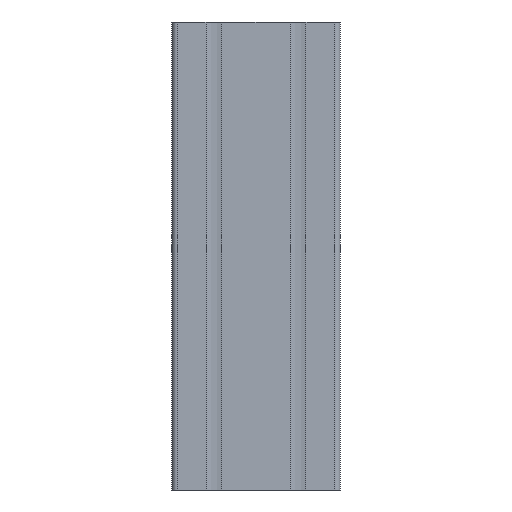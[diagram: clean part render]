
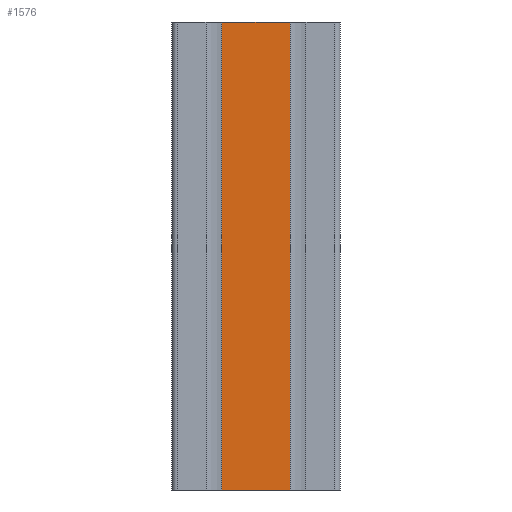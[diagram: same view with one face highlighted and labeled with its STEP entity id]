
A CAD part, left-side view. The second image highlights one B-rep face of the part: STEP entity #1576.
In plain terms, the highlighted planar face has unit normal (-1, 0, 0).
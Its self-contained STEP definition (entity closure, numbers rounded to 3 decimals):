
#128 = LINE ( 'NONE', #1329, #1965 ) ;
#320 = CARTESIAN_POINT ( 'NONE',  ( -22.5, 0., 125. ) ) ;
#326 = VECTOR ( 'NONE', #1199, 1000. ) ;
#348 = CARTESIAN_POINT ( 'NONE',  ( -22.5, -18.3, 125. ) ) ;
#420 = ORIENTED_EDGE ( 'NONE', *, *, #2112, .T. ) ;
#616 = EDGE_CURVE ( 'NONE', #3519, #660, #2517, .T. ) ;
#660 = VERTEX_POINT ( 'NONE', #3390 ) ;
#722 = CARTESIAN_POINT ( 'NONE',  ( -22.5, -18.3, -125. ) ) ;
#726 = CARTESIAN_POINT ( 'NONE',  ( -22.5, 0., 125. ) ) ;
#745 = FACE_OUTER_BOUND ( 'NONE', #2596, .T. ) ;
#809 = AXIS2_PLACEMENT_3D ( 'NONE', #726, #1669, #2556 ) ;
#1199 = DIRECTION ( 'NONE',  ( 0., 0., -1. ) ) ;
#1329 = CARTESIAN_POINT ( 'NONE',  ( -22.5, 18.3, 125. ) ) ;
#1334 = PLANE ( 'NONE',  #809 ) ;
#1576 = ADVANCED_FACE ( 'NONE', ( #745 ), #1334, .T. ) ;
#1587 = DIRECTION ( 'NONE',  ( 0., 1., 0. ) ) ;
#1669 = DIRECTION ( 'NONE',  ( -1., 0., 0. ) ) ;
#1731 = VECTOR ( 'NONE', #3116, 1000. ) ;
#1930 = EDGE_CURVE ( 'NONE', #2203, #3519, #3085, .T. ) ;
#1965 = VECTOR ( 'NONE', #2869, 1000. ) ;
#2112 = EDGE_CURVE ( 'NONE', #3813, #660, #128, .T. ) ;
#2137 = LINE ( 'NONE', #320, #2214 ) ;
#2157 = CARTESIAN_POINT ( 'NONE',  ( -22.5, 0., -125. ) ) ;
#2203 = VERTEX_POINT ( 'NONE', #2381 ) ;
#2214 = VECTOR ( 'NONE', #1587, 1000. ) ;
#2381 = CARTESIAN_POINT ( 'NONE',  ( -22.5, -18.3, 125. ) ) ;
#2517 = LINE ( 'NONE', #2157, #1731 ) ;
#2556 = DIRECTION ( 'NONE',  ( 0., -1., 0. ) ) ;
#2596 = EDGE_LOOP ( 'NONE', ( #2601, #2815, #2833, #420 ) ) ;
#2601 = ORIENTED_EDGE ( 'NONE', *, *, #616, .F. ) ;
#2762 = EDGE_CURVE ( 'NONE', #2203, #3813, #2137, .T. ) ;
#2815 = ORIENTED_EDGE ( 'NONE', *, *, #1930, .F. ) ;
#2833 = ORIENTED_EDGE ( 'NONE', *, *, #2762, .T. ) ;
#2869 = DIRECTION ( 'NONE',  ( 0., 0., -1. ) ) ;
#3085 = LINE ( 'NONE', #348, #326 ) ;
#3116 = DIRECTION ( 'NONE',  ( 0., 1., 0. ) ) ;
#3390 = CARTESIAN_POINT ( 'NONE',  ( -22.5, 18.3, -125. ) ) ;
#3519 = VERTEX_POINT ( 'NONE', #722 ) ;
#3699 = CARTESIAN_POINT ( 'NONE',  ( -22.5, 18.3, 125. ) ) ;
#3813 = VERTEX_POINT ( 'NONE', #3699 ) ;
